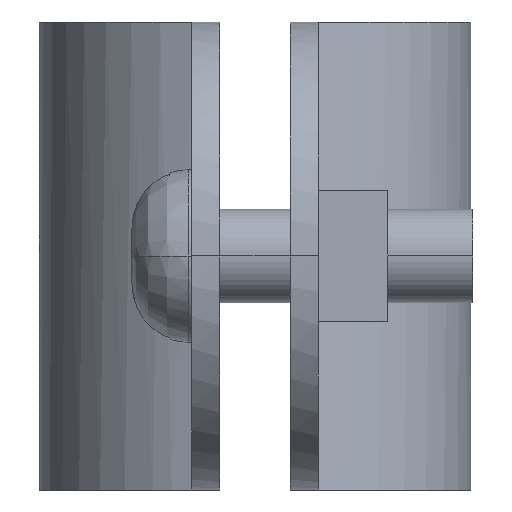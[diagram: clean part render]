
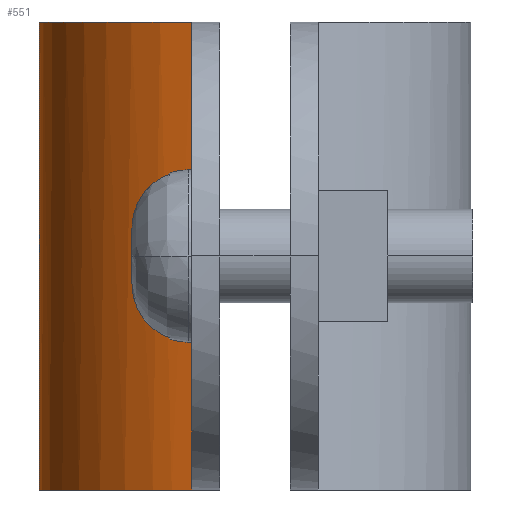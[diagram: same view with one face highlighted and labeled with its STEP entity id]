
A CAD part, left-side view. The second image highlights one B-rep face of the part: STEP entity #551.
In plain terms, the highlighted free-form (B-spline) face has degree [3, 1] with [4, 2] control points.
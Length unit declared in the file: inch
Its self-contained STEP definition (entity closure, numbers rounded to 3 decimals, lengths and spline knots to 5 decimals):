
#397=EDGE_CURVE('',#985,#986,#987,.T.);
#551=ADVANCED_FACE('',(#1205),#1206,.T.);
#563=EDGE_CURVE('',#1221,#901,#1222,.T.);
#615=EDGE_CURVE('',#901,#985,#1286,.T.);
#781=EDGE_CURVE('',#1221,#986,#1487,.T.);
#901=VERTEX_POINT('',#1709);
#985=VERTEX_POINT('',#1854);
#986=VERTEX_POINT('',#1855);
#987=B_SPLINE_CURVE_WITH_KNOTS('',3,(#1856,#1857,#1858,#1859),.UNSPECIFIED.,.F.,.F.,(4,4),(0.0,1.0),.UNSPECIFIED.);
#1205=FACE_OUTER_BOUND('',#2311,.T.);
#1206=B_SPLINE_SURFACE_WITH_KNOTS('',3,1,((#2312,#2313),(#2314,#2315),(#2316,#2317),(#2318,#2319)),.UNSPECIFIED.,.F.,.F.,.F.,(4,4),(2,2),(-1.0,-0.0),(0.0,1.25),.UNSPECIFIED.);
#1221=VERTEX_POINT('',#2343);
#1222=B_SPLINE_CURVE_WITH_KNOTS('',3,(#2344,#2345,#2346,#2347),.UNSPECIFIED.,.F.,.F.,(4,4),(-1.0,-0.0),.UNSPECIFIED.);
#1286=LINE('',#2469,#2470);
#1487=LINE('',#3030,#3031);
#1709=CARTESIAN_POINT('',(0.53356,1.04982,0.00009));
#1854=CARTESIAN_POINT('',(0.53356,1.04982,1.24989));
#1855=CARTESIAN_POINT('',(1.0845,1.457,1.24989));
#1856=CARTESIAN_POINT('',(0.53356,1.04982,1.24989));
#1857=CARTESIAN_POINT('',(0.60784,1.29182,1.24989));
#1858=CARTESIAN_POINT('',(0.83135,1.457,1.24989));
#1859=CARTESIAN_POINT('',(1.0845,1.457,1.24989));
#2311=EDGE_LOOP('',(#3579,#3580,#3581,#3582));
#2312=CARTESIAN_POINT('',(1.0845,1.457,0.0));
#2313=CARTESIAN_POINT('',(1.0845,1.457,1.25));
#2314=CARTESIAN_POINT('',(0.83135,1.457,0.0));
#2315=CARTESIAN_POINT('',(0.83135,1.457,1.25));
#2316=CARTESIAN_POINT('',(0.60784,1.29182,0.0));
#2317=CARTESIAN_POINT('',(0.60784,1.29182,1.25));
#2318=CARTESIAN_POINT('',(0.53356,1.04982,0.0));
#2319=CARTESIAN_POINT('',(0.53356,1.04982,1.25));
#2343=CARTESIAN_POINT('',(1.0845,1.457,0.00009));
#2344=CARTESIAN_POINT('',(1.0845,1.457,0.00009));
#2345=CARTESIAN_POINT('',(0.83135,1.457,0.00009));
#2346=CARTESIAN_POINT('',(0.60784,1.29182,0.00009));
#2347=CARTESIAN_POINT('',(0.53356,1.04982,0.00009));
#2469=CARTESIAN_POINT('',(0.53356,1.04982,0.0));
#2470=VECTOR('',#3674,1.0);
#3030=CARTESIAN_POINT('',(1.0845,1.457,0.0));
#3031=VECTOR('',#3954,1.0);
#3579=ORIENTED_EDGE('',*,*,#397,.T.);
#3580=ORIENTED_EDGE('',*,*,#781,.F.);
#3581=ORIENTED_EDGE('',*,*,#563,.T.);
#3582=ORIENTED_EDGE('',*,*,#615,.T.);
#3674=DIRECTION('',(0.0,0.0,1.0));
#3954=DIRECTION('',(0.0,0.0,1.0));
